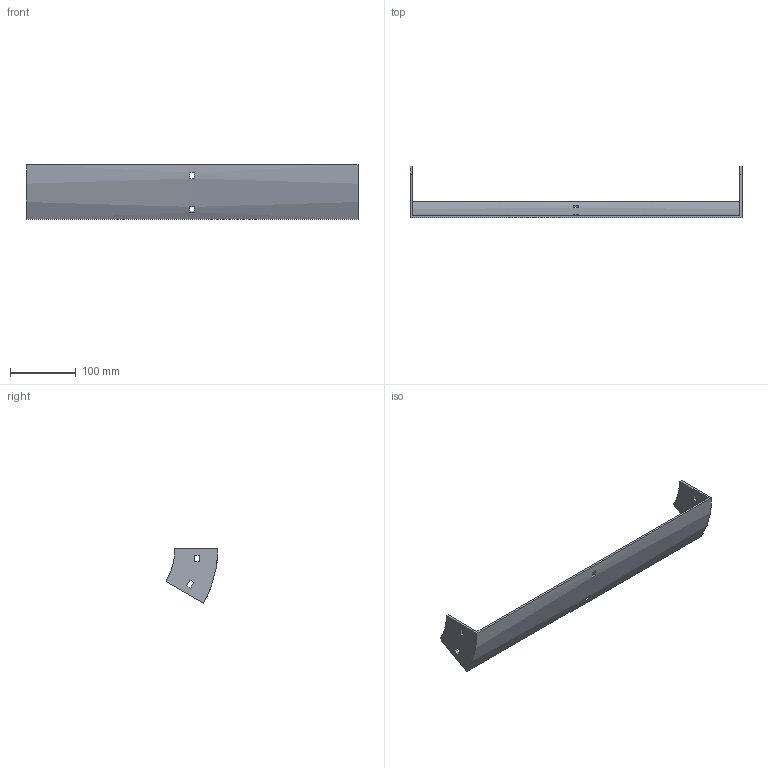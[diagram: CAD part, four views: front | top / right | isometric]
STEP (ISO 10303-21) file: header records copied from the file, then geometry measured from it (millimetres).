
FILE_DESCRIPTION (( 'STEP AP214' ), '1' );
FILE_NAME ('32B1H500.step', '2025-02-21T09:44:14', ( '' ), ( '' ), 'SwSTEP 2.0', 'SolidWorks 2023', '' );
FILE_SCHEMA (( 'AUTOMOTIVE_DESIGN' ));
Length unit declared in the file: millimetre
Products named in the file (1): 32B1H500
Bounding box: 504 x 78.9 x 82.75 mm (x, y, z)
Volume: 179621.2 mm3; surface area: 108103.8 mm2
Topology: 1 solids, 1 shells, 34 faces, 96 edges, 64 vertices
Faces by surface type: plane 30, cylinder 4
Entity records: 1143 total; most frequent: CARTESIAN_POINT 195, ORIENTED_EDGE 192, DIRECTION 182, EDGE_CURVE 96, VECTOR 80, LINE 80, VERTEX_POINT 64, AXIS2_PLACEMENT_3D 51
